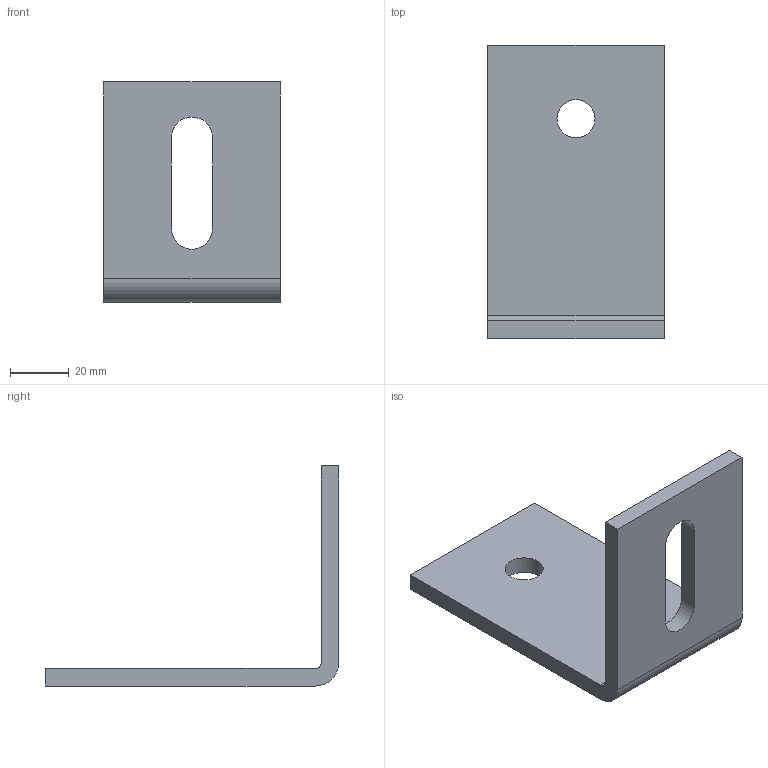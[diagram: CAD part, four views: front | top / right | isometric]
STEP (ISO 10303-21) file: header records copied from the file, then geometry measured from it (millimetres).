
FILE_DESCRIPTION (( 'STEP AP203' ), '1' );
FILE_NAME ('111A.STEP', '2020-10-19T13:58:24', ( '' ), ( '' ), 'SwSTEP 2.0', 'SolidWorks 2013', '' );
FILE_SCHEMA (( 'CONFIG_CONTROL_DESIGN' ));
Length unit declared in the file: millimetre
Products named in the file (1): 111A
Bounding box: 60 x 100 x 75 mm (x, y, z)
Volume: 55743.4 mm3; surface area: 22184.3 mm2
Topology: 1 solids, 1 shells, 17 faces, 45 edges, 30 vertices
Faces by surface type: plane 10, cylinder 7
Entity records: 618 total; most frequent: DIRECTION 95, CARTESIAN_POINT 93, ORIENTED_EDGE 90, EDGE_CURVE 45, AXIS2_PLACEMENT_3D 32, VECTOR 31, LINE 31, VERTEX_POINT 30
